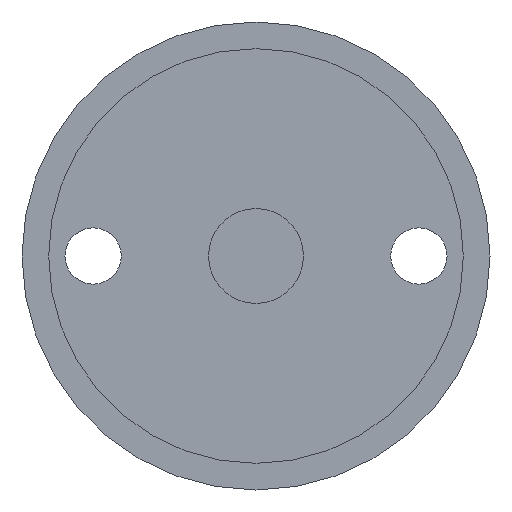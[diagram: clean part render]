
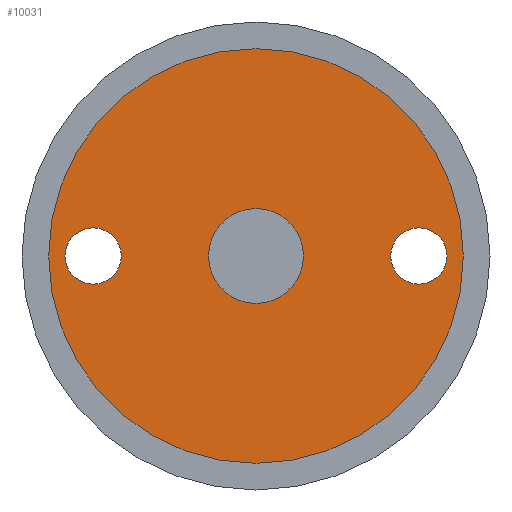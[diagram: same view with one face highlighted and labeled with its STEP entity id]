
A CAD part, front view. The second image highlights one B-rep face of the part: STEP entity #10031.
In plain terms, the highlighted planar face has unit normal (0, -1, 0).
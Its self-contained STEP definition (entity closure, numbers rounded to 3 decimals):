
#188 = ORIENTED_EDGE ( 'NONE', *, *, #17922, .T. ) ;
#352 = VERTEX_POINT ( 'NONE', #1150 ) ;
#874 = CARTESIAN_POINT ( 'NONE',  ( -27.5, -14.096, 4.75 ) ) ;
#929 = AXIS2_PLACEMENT_3D ( 'NONE', #14212, #3824, #15946 ) ;
#990 = CARTESIAN_POINT ( 'NONE',  ( 0., -14.096, 0. ) ) ;
#1150 = CARTESIAN_POINT ( 'NONE',  ( -8., -14.096, 0. ) ) ;
#1455 = PLANE ( 'NONE',  #16378 ) ;
#1522 = DIRECTION ( 'NONE',  ( -1., 0., 0. ) ) ;
#2142 = CARTESIAN_POINT ( 'NONE',  ( 27.5, -14.096, -4.75 ) ) ;
#2731 = DIRECTION ( 'NONE',  ( -1., 0., 0. ) ) ;
#2814 = CARTESIAN_POINT ( 'NONE',  ( -27.5, -14.096, 0. ) ) ;
#2918 = DIRECTION ( 'NONE',  ( 0., -1., 0. ) ) ;
#3005 = CIRCLE ( 'NONE', #8489, 4.75 ) ;
#3732 = DIRECTION ( 'NONE',  ( 0., 1., 0. ) ) ;
#3824 = DIRECTION ( 'NONE',  ( 0., 1., 0. ) ) ;
#4137 = VERTEX_POINT ( 'NONE', #2142 ) ;
#4553 = DIRECTION ( 'NONE',  ( -1., 0., 0. ) ) ;
#4568 = AXIS2_PLACEMENT_3D ( 'NONE', #8410, #20563, #10157 ) ;
#4624 = AXIS2_PLACEMENT_3D ( 'NONE', #19166, #8784, #20932 ) ;
#5143 = CARTESIAN_POINT ( 'NONE',  ( 35., -14.096, 0. ) ) ;
#6718 = AXIS2_PLACEMENT_3D ( 'NONE', #8638, #20777, #10385 ) ;
#6793 = VERTEX_POINT ( 'NONE', #9566 ) ;
#7110 = EDGE_CURVE ( 'NONE', #352, #20675, #21785, .T. ) ;
#7709 = VERTEX_POINT ( 'NONE', #13846 ) ;
#8185 = VERTEX_POINT ( 'NONE', #5143 ) ;
#8240 = EDGE_LOOP ( 'NONE', ( #22485, #188 ) ) ;
#8410 = CARTESIAN_POINT ( 'NONE',  ( 27.5, -14.096, 0. ) ) ;
#8489 = AXIS2_PLACEMENT_3D ( 'NONE', #2814, #14958, #4553 ) ;
#8638 = CARTESIAN_POINT ( 'NONE',  ( 0., -14.096, 0. ) ) ;
#8784 = DIRECTION ( 'NONE',  ( 0., -1., 0. ) ) ;
#9519 = AXIS2_PLACEMENT_3D ( 'NONE', #13318, #2918, #15062 ) ;
#9566 = CARTESIAN_POINT ( 'NONE',  ( -35., -14.096, 0. ) ) ;
#10031 = ADVANCED_FACE ( 'NONE', ( #19971, #15117, #22484, #17838 ), #1455, .T. ) ;
#10157 = DIRECTION ( 'NONE',  ( -1., 0., 0. ) ) ;
#10385 = DIRECTION ( 'NONE',  ( -1., 0., 0. ) ) ;
#11891 = DIRECTION ( 'NONE',  ( 0., -1., 0. ) ) ;
#12577 = EDGE_LOOP ( 'NONE', ( #14596, #16882 ) ) ;
#12873 = EDGE_CURVE ( 'NONE', #6793, #8185, #22189, .T. ) ;
#13087 = ORIENTED_EDGE ( 'NONE', *, *, #19584, .T. ) ;
#13133 = DIRECTION ( 'NONE',  ( 0., -1., 0. ) ) ;
#13318 = CARTESIAN_POINT ( 'NONE',  ( 0., -14.096, 0. ) ) ;
#13598 = CARTESIAN_POINT ( 'NONE',  ( 8., -14.096, 0. ) ) ;
#13846 = CARTESIAN_POINT ( 'NONE',  ( -27.5, -14.096, -4.75 ) ) ;
#14114 = CARTESIAN_POINT ( 'NONE',  ( 27.5, -14.096, 0. ) ) ;
#14212 = CARTESIAN_POINT ( 'NONE',  ( -27.5, -14.096, 0. ) ) ;
#14324 = VERTEX_POINT ( 'NONE', #874 ) ;
#14596 = ORIENTED_EDGE ( 'NONE', *, *, #7110, .F. ) ;
#14958 = DIRECTION ( 'NONE',  ( 0., 1., 0. ) ) ;
#14984 = ORIENTED_EDGE ( 'NONE', *, *, #12873, .T. ) ;
#15062 = DIRECTION ( 'NONE',  ( -1., 0., 0. ) ) ;
#15117 = FACE_BOUND ( 'NONE', #16769, .T. ) ;
#15415 = AXIS2_PLACEMENT_3D ( 'NONE', #14114, #3732, #15850 ) ;
#15545 = CIRCLE ( 'NONE', #929, 4.75 ) ;
#15850 = DIRECTION ( 'NONE',  ( -1., 0., 0. ) ) ;
#15946 = DIRECTION ( 'NONE',  ( -1., 0., 0. ) ) ;
#16018 = ORIENTED_EDGE ( 'NONE', *, *, #16023, .T. ) ;
#16023 = EDGE_CURVE ( 'NONE', #21855, #4137, #18375, .T. ) ;
#16378 = AXIS2_PLACEMENT_3D ( 'NONE', #22330, #11891, #1522 ) ;
#16493 = AXIS2_PLACEMENT_3D ( 'NONE', #990, #13133, #2731 ) ;
#16769 = EDGE_LOOP ( 'NONE', ( #21295, #16018 ) ) ;
#16882 = ORIENTED_EDGE ( 'NONE', *, *, #19320, .F. ) ;
#17098 = CIRCLE ( 'NONE', #4568, 4.75 ) ;
#17652 = CARTESIAN_POINT ( 'NONE',  ( 27.5, -14.096, 4.75 ) ) ;
#17838 = FACE_OUTER_BOUND ( 'NONE', #19243, .T. ) ;
#17922 = EDGE_CURVE ( 'NONE', #14324, #7709, #15545, .T. ) ;
#18375 = CIRCLE ( 'NONE', #15415, 4.75 ) ;
#18684 = EDGE_CURVE ( 'NONE', #7709, #14324, #3005, .T. ) ;
#18808 = EDGE_CURVE ( 'NONE', #4137, #21855, #17098, .T. ) ;
#19166 = CARTESIAN_POINT ( 'NONE',  ( 0., -14.096, 0. ) ) ;
#19243 = EDGE_LOOP ( 'NONE', ( #14984, #13087 ) ) ;
#19320 = EDGE_CURVE ( 'NONE', #20675, #352, #22020, .T. ) ;
#19584 = EDGE_CURVE ( 'NONE', #8185, #6793, #20367, .T. ) ;
#19971 = FACE_BOUND ( 'NONE', #8240, .T. ) ;
#20367 = CIRCLE ( 'NONE', #6718, 35. ) ;
#20563 = DIRECTION ( 'NONE',  ( 0., 1., 0. ) ) ;
#20675 = VERTEX_POINT ( 'NONE', #13598 ) ;
#20777 = DIRECTION ( 'NONE',  ( 0., -1., 0. ) ) ;
#20932 = DIRECTION ( 'NONE',  ( -1., 0., 0. ) ) ;
#21295 = ORIENTED_EDGE ( 'NONE', *, *, #18808, .T. ) ;
#21785 = CIRCLE ( 'NONE', #4624, 8. ) ;
#21855 = VERTEX_POINT ( 'NONE', #17652 ) ;
#22020 = CIRCLE ( 'NONE', #16493, 8. ) ;
#22189 = CIRCLE ( 'NONE', #9519, 35. ) ;
#22330 = CARTESIAN_POINT ( 'NONE',  ( -15., -14.096, 0. ) ) ;
#22484 = FACE_BOUND ( 'NONE', #12577, .T. ) ;
#22485 = ORIENTED_EDGE ( 'NONE', *, *, #18684, .T. ) ;
